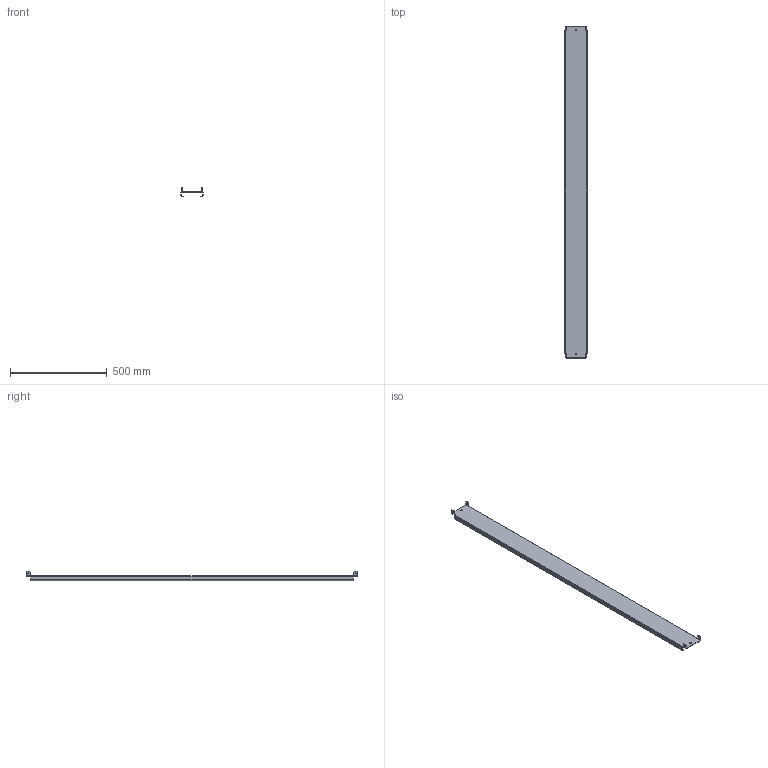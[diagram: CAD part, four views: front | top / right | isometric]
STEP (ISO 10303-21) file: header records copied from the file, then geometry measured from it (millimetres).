
FILE_DESCRIPTION (( 'STEP AP203' ), '1' );
FILE_NAME ('MP 180.11 Ïàíåëü ìîíòàæíàÿ ïðîìåæóòî÷íàÿ.STEP', '2012-11-26T12:35:03', ( 'system' ), ( '' ), 'SwSTEP 2.0', 'SolidWorks 2012', '' );
FILE_SCHEMA (( 'CONFIG_CONTROL_DESIGN' ));
Length unit declared in the file: millimetre
Products named in the file (1): MP 180.11 Ïàíåëü ìîíòàæíàÿ ïðîìåæóòî÷íàÿ
Bounding box: 114 x 1713 x 47 mm (x, y, z)
Volume: 731331.1 mm3; surface area: 595226.7 mm2
Topology: 1 solids, 1 shells, 92 faces, 238 edges, 148 vertices
Faces by surface type: plane 58, cylinder 34
Entity records: 2875 total; most frequent: DIRECTION 492, CARTESIAN_POINT 479, ORIENTED_EDGE 476, EDGE_CURVE 238, VECTOR 170, LINE 170, AXIS2_PLACEMENT_3D 161, VERTEX_POINT 148
